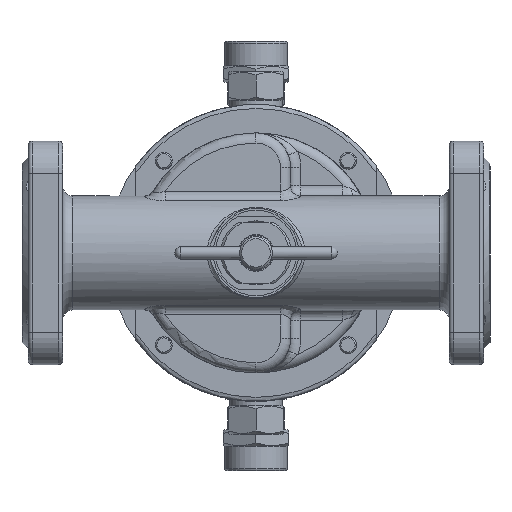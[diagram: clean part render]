
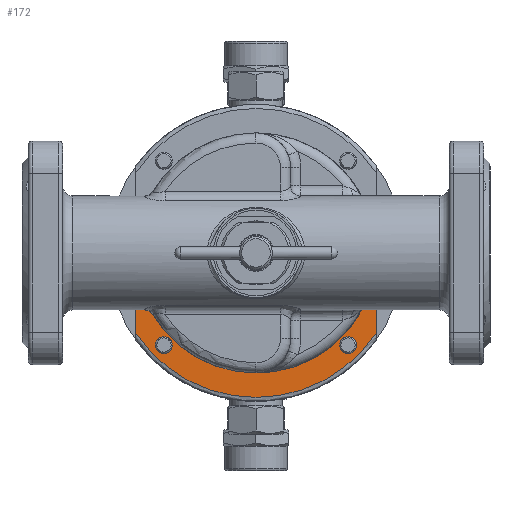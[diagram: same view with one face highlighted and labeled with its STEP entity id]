
A CAD part, front view. The second image highlights one B-rep face of the part: STEP entity #172.
In plain terms, the highlighted planar face has unit normal (0, -1, 0).
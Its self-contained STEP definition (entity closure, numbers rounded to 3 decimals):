
#172=ADVANCED_FACE('',(#4469,#4471,#4473),#4475,.F.);
#4469=FACE_BOUND('',#4470,.T.);
#4470=EDGE_LOOP('',(#22166));
#4471=FACE_BOUND('',#4472,.T.);
#4472=EDGE_LOOP('',(#22167));
#4473=FACE_OUTER_BOUND('',#4474,.T.);
#4474=EDGE_LOOP('',(#22168,#22169,#22170,#22171));
#4475=PLANE('',#4476);
#4476=AXIS2_PLACEMENT_3D('',#4477,#4478,#4479);
#4477=CARTESIAN_POINT('',(0.,39.5,0.));
#4478=DIRECTION('',(0.,1.,0.));
#4479=DIRECTION('',(-1.,0.,0.));
#22166=ORIENTED_EDGE('',*,*,#33803,.T.);
#22167=ORIENTED_EDGE('',*,*,#33804,.T.);
#22168=ORIENTED_EDGE('',*,*,#33802,.F.);
#22169=ORIENTED_EDGE('',*,*,#33758,.F.);
#22170=ORIENTED_EDGE('',*,*,#33750,.F.);
#22171=ORIENTED_EDGE('',*,*,#33741,.F.);
#33741=EDGE_CURVE('',#38900,#38797,#38902,.T.);
#33750=EDGE_CURVE('',#38797,#38799,#38918,.T.);
#33758=EDGE_CURVE('',#38799,#38931,#38932,.T.);
#33802=EDGE_CURVE('',#38931,#38900,#39001,.T.);
#33803=EDGE_CURVE('',#39002,#39002,#39003,.T.);
#33804=EDGE_CURVE('',#39004,#39004,#39005,.T.);
#38797=VERTEX_POINT('',#47297);
#38799=VERTEX_POINT('',#47301);
#38900=VERTEX_POINT('',#47669);
#38902=LINE('',#47727,#47728);
#38918=CIRCLE('',#47804,59.);
#38931=VERTEX_POINT('',#47883);
#38932=LINE('',#47884,#47885);
#39001=CIRCLE('',#48438,71.);
#39002=VERTEX_POINT('',#48442);
#39003=CIRCLE('',#48443,4.188);
#39004=VERTEX_POINT('',#48447);
#39005=CIRCLE('',#48448,4.188);
#47297=CARTESIAN_POINT('',(-59.,39.5,0.));
#47301=CARTESIAN_POINT('',(59.,39.5,0.));
#47669=CARTESIAN_POINT('',(-59.,39.5,-39.497));
#47727=CARTESIAN_POINT('',(-59.,39.5,-39.497));
#47728=VECTOR('',#47729,1.);
#47729=DIRECTION('',(0.,0.,1.));
#47804=AXIS2_PLACEMENT_3D('',#47805,#47806,#47807);
#47805=CARTESIAN_POINT('',(0.,39.5,0.));
#47806=DIRECTION('',(0.,-1.,0.));
#47807=DIRECTION('',(-1.,0.,0.));
#47883=CARTESIAN_POINT('',(59.,39.5,-39.497));
#47884=CARTESIAN_POINT('',(59.,39.5,0.));
#47885=VECTOR('',#47886,1.);
#47886=DIRECTION('',(0.,0.,-1.));
#48438=AXIS2_PLACEMENT_3D('',#48439,#48440,#48441);
#48439=CARTESIAN_POINT('',(0.,39.5,0.));
#48440=DIRECTION('',(0.,1.,0.));
#48441=DIRECTION('',(0.831,0.,-0.556));
#48442=CARTESIAN_POINT('',(-49.443,39.5,-45.255));
#48443=AXIS2_PLACEMENT_3D('',#48444,#48445,#48446);
#48444=CARTESIAN_POINT('',(-45.255,39.5,-45.255));
#48445=DIRECTION('',(0.,1.,0.));
#48446=DIRECTION('',(-1.,0.,0.));
#48447=CARTESIAN_POINT('',(41.067,39.5,-45.255));
#48448=AXIS2_PLACEMENT_3D('',#48449,#48450,#48451);
#48449=CARTESIAN_POINT('',(45.255,39.5,-45.255));
#48450=DIRECTION('',(0.,1.,0.));
#48451=DIRECTION('',(-1.,0.,0.));
